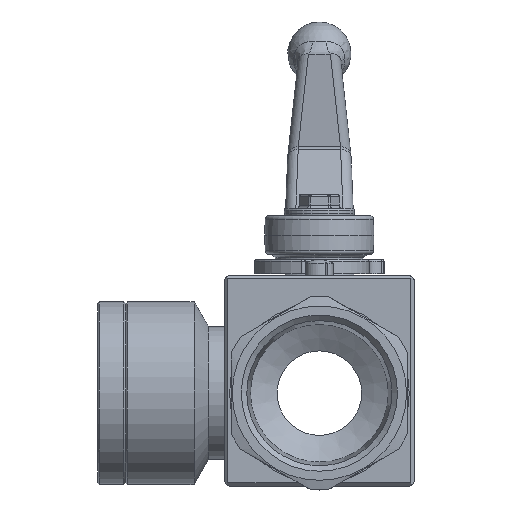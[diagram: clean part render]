
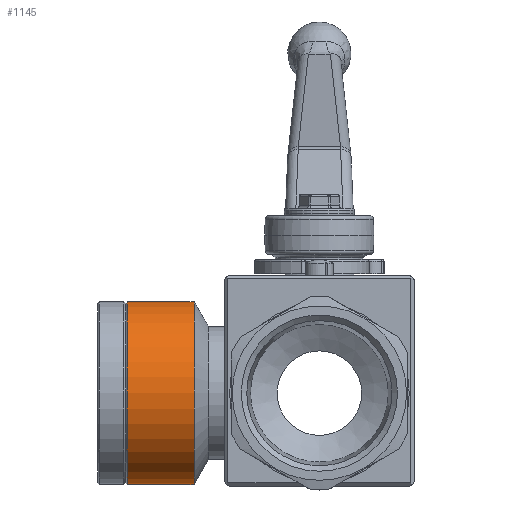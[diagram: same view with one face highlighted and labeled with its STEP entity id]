
A CAD part, front view. The second image highlights one B-rep face of the part: STEP entity #1145.
In plain terms, the highlighted cylindrical face has radius 26 mm (diameter 52 mm), a full revolution.
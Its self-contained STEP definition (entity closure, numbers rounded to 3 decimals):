
#1145 = ADVANCED_FACE( '', ( #2351, #2352 ), #2353, .T. );
#2351 = FACE_OUTER_BOUND( '', #4412, .T. );
#2352 = FACE_OUTER_BOUND( '', #4413, .T. );
#2353 = CYLINDRICAL_SURFACE( '', #4414, 26. );
#4412 = EDGE_LOOP( '', ( #7238 ) );
#4413 = EDGE_LOOP( '', ( #7239 ) );
#4414 = AXIS2_PLACEMENT_3D( '', #7240, #7241, #7242 );
#7238 = ORIENTED_EDGE( '', *, *, #9433, .T. );
#7239 = ORIENTED_EDGE( '', *, *, #9482, .F. );
#7240 = CARTESIAN_POINT( '', ( -39., 0., 0. ) );
#7241 = DIRECTION( '', ( -1., 0., 0. ) );
#7242 = DIRECTION( '', ( 0., 0., -1. ) );
#9433 = EDGE_CURVE( '', #11303, #11303, #11304, .T. );
#9482 = EDGE_CURVE( '', #11364, #11364, #11365, .T. );
#11303 = VERTEX_POINT( '', #14679 );
#11304 = CIRCLE( '', #14680, 26. );
#11364 = VERTEX_POINT( '', #14782 );
#11365 = CIRCLE( '', #14783, 26. );
#14679 = CARTESIAN_POINT( '', ( -11.599, 0., 26. ) );
#14680 = AXIS2_PLACEMENT_3D( '', #16604, #16605, #16606 );
#14782 = CARTESIAN_POINT( '', ( -30.5, 0., 26. ) );
#14783 = AXIS2_PLACEMENT_3D( '', #16662, #16663, #16664 );
#16604 = CARTESIAN_POINT( '', ( -11.599, 0., 0. ) );
#16605 = DIRECTION( '', ( -1., 0., 0. ) );
#16606 = DIRECTION( '', ( 0., 0., 1. ) );
#16662 = CARTESIAN_POINT( '', ( -30.5, 0., 0. ) );
#16663 = DIRECTION( '', ( -1., 0., 0. ) );
#16664 = DIRECTION( '', ( 0., 0., 1. ) );
